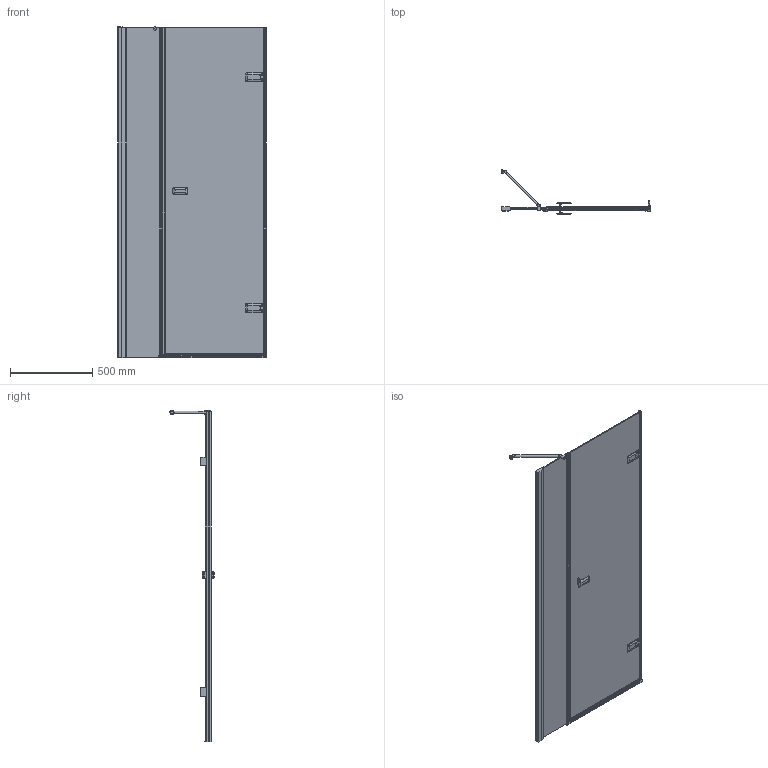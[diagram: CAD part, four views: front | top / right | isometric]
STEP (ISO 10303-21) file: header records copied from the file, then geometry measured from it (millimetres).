
FILE_DESCRIPTION(/* description */ (''),/* implementation_level */ '2;1');
FILE_NAME(/* name */ 'E:\Работа\Сергей\Душевые кабинки\! Работа\!\TREND DOOR GK-862BPONE\TREND DOOR GK-862BPONE правая модель\TREND DOOR GK-862BPONE ПРАВАЯ-3D.stp',/* time_stamp */ '2017-08-28T18:30:21+03:00',/* author */ ('PC'),/* organization */ (''),/* preprocessor_version */ 'ST-DEVELOPER v15.2',/* originating_system */ 'Autodesk Inventor 2014',/* authorisation */ '');
FILE_SCHEMA (('AUTOMOTIVE_DESIGN { 1 0 10303 214 3 1 1 }'));
Length unit declared in the file: millimetre
Products named in the file (1): TREND DOOR GK-862BPONE ПРАВАЯ-
3D
Bounding box: 899.14 x 268.74 x 2009.49 mm (x, y, z)
Volume: 14167082.2 mm3; surface area: 4004094.7 mm2
Topology: 5 solids, 9 shells, 840 faces, 2180 edges, 1326 vertices
Faces by surface type: plane 525, cylinder 229, bspline 52, torus 26, sphere 6, cone 2
Full cylindrical faces by diameter (mm): 12 x2, 15 x1, 20 x2, 26 x1
Entity records: 27974 total; most frequent: CARTESIAN_POINT 6819, ORIENTED_EDGE 4264, DIRECTION 4123, EDGE_CURVE 2132, LINE 1511, VECTOR 1511, VERTEX_POINT 1318, AXIS2_PLACEMENT_3D 1306
